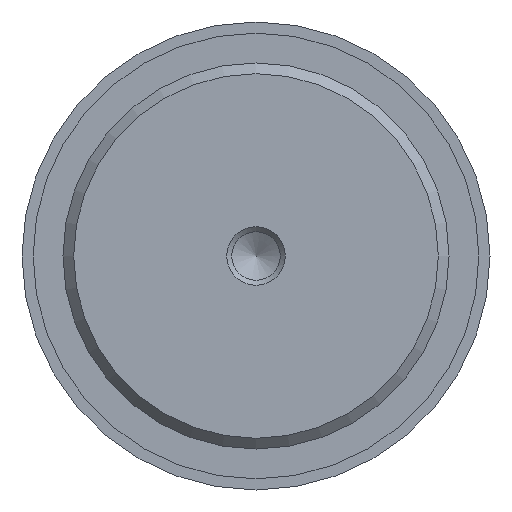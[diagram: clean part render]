
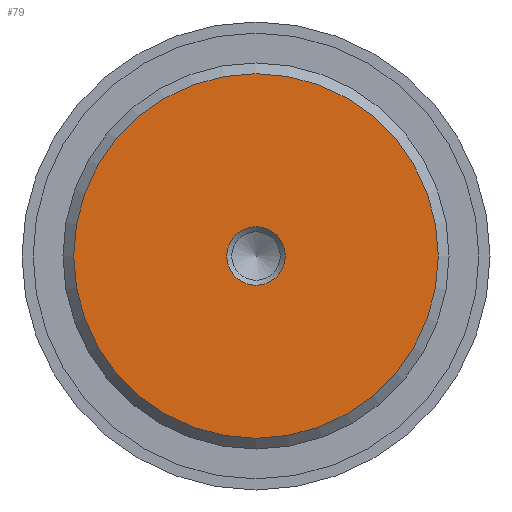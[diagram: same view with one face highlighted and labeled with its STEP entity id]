
A CAD part, front view. The second image highlights one B-rep face of the part: STEP entity #79.
In plain terms, the highlighted planar face has unit normal (0, -1, 0).
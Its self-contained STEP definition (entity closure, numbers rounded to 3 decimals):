
#79 = ADVANCED_FACE( '', ( #139, #140 ), #141, .F. );
#139 = FACE_BOUND( '', #257, .T. );
#140 = FACE_OUTER_BOUND( '', #258, .T. );
#141 = PLANE( '', #259 );
#257 = EDGE_LOOP( '', ( #387 ) );
#258 = EDGE_LOOP( '', ( #388 ) );
#259 = AXIS2_PLACEMENT_3D( '', #389, #390, #391 );
#387 = ORIENTED_EDGE( '', *, *, #758, .F. );
#388 = ORIENTED_EDGE( '', *, *, #762, .T. );
#389 = CARTESIAN_POINT( '', ( 15.58, 0., 0. ) );
#390 = DIRECTION( '', ( 0., 1., 0. ) );
#391 = DIRECTION( '', ( 0., 0., 1. ) );
#758 = EDGE_CURVE( '', #880, #880, #881, .T. );
#762 = EDGE_CURVE( '', #886, #886, #887, .T. );
#880 = VERTEX_POINT( '', #1090 );
#881 = CIRCLE( '', #1091, 2.5 );
#886 = VERTEX_POINT( '', #1096 );
#887 = CIRCLE( '', #1097, 15.58 );
#1090 = CARTESIAN_POINT( '', ( 2.5, 0., 0. ) );
#1091 = AXIS2_PLACEMENT_3D( '', #1434, #1435, #1436 );
#1096 = CARTESIAN_POINT( '', ( 0., 0., -15.58 ) );
#1097 = AXIS2_PLACEMENT_3D( '', #1443, #1444, #1445 );
#1434 = CARTESIAN_POINT( '', ( 0., 0., 0. ) );
#1435 = DIRECTION( '', ( 0., -1., 0. ) );
#1436 = DIRECTION( '', ( 1., 0., 0. ) );
#1443 = CARTESIAN_POINT( '', ( 0., 0., 0. ) );
#1444 = DIRECTION( '', ( 0., -1., 0. ) );
#1445 = DIRECTION( '', ( 0., 0., -1. ) );
